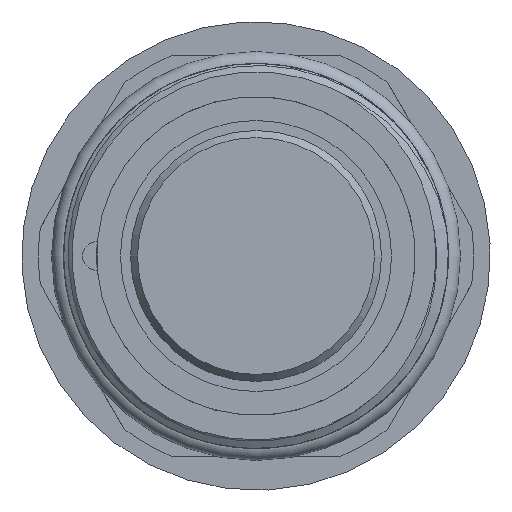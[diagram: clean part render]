
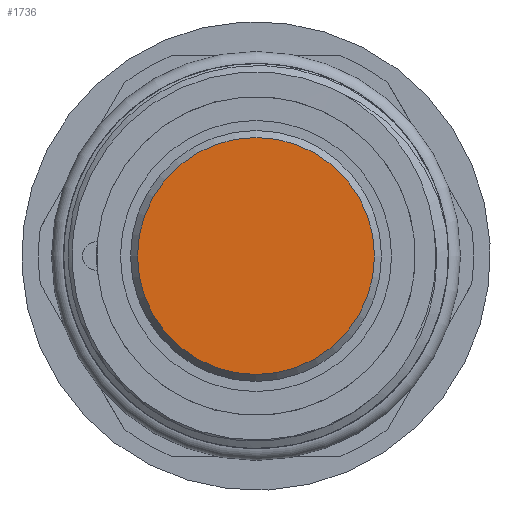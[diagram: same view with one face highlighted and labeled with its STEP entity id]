
A CAD part, left-side view. The second image highlights one B-rep face of the part: STEP entity #1736.
In plain terms, the highlighted planar face has unit normal (-1, 0, 0).
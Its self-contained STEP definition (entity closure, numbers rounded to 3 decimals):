
#3 = VERTEX_POINT ( 'NONE', #3751 ) ;
#74 = DIRECTION ( 'NONE',  ( 0., -1., 0. ) ) ;
#1586 = PLANE ( 'NONE',  #3186 ) ;
#1657 = DIRECTION ( 'NONE',  ( 0., 1., 0. ) ) ;
#1736 = ADVANCED_FACE ( 'NONE', ( #4192 ), #1586, .T. ) ;
#2255 = DIRECTION ( 'NONE',  ( -1., 0., 0. ) ) ;
#2393 = CARTESIAN_POINT ( 'NONE',  ( -0.655, 8.705, 1.051 ) ) ;
#2419 = DIRECTION ( 'NONE',  ( 1., 0., 0. ) ) ;
#3062 = CARTESIAN_POINT ( 'NONE',  ( -0.655, 8.705, 4.591 ) ) ;
#3186 = AXIS2_PLACEMENT_3D ( 'NONE', #3062, #2255, #74 ) ;
#3271 = CIRCLE ( 'NONE', #4522, 7.08 ) ;
#3599 = EDGE_CURVE ( 'NONE', #3, #3, #3271, .T. ) ;
#3751 = CARTESIAN_POINT ( 'NONE',  ( -0.655, 15.785, 1.051 ) ) ;
#4192 = FACE_OUTER_BOUND ( 'NONE', #4415, .T. ) ;
#4415 = EDGE_LOOP ( 'NONE', ( #4703 ) ) ;
#4522 = AXIS2_PLACEMENT_3D ( 'NONE', #2393, #2419, #1657 ) ;
#4703 = ORIENTED_EDGE ( 'NONE', *, *, #3599, .F. ) ;
